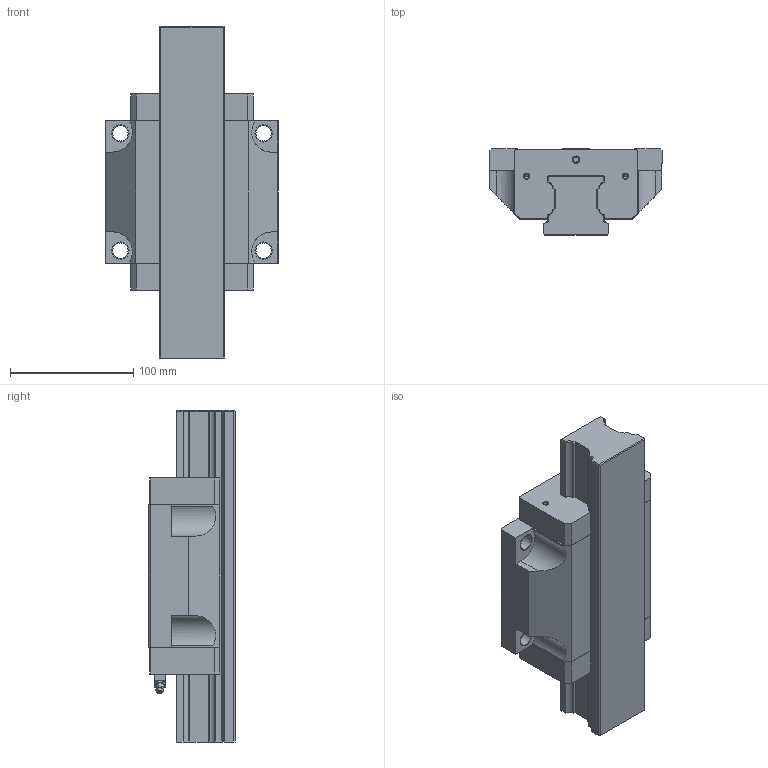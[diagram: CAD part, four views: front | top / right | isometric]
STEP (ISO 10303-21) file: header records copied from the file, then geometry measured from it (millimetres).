
FILE_DESCRIPTION((''),'2;1');
FILE_NAME('KWC_055_FNS_CS__ASM','2021-10-13T04:43:31',('ac91sw'),(''),'CREO PARAMETRIC BY PTC INC, 2020044','CREO PARAMETRIC BY PTC INC, 2020044','');
FILE_SCHEMA(('AUTOMOTIVE_DESIGN { 1 0 10303 214 1 1 1 1 }'));
Length unit declared in the file: millimetre
Products named in the file (7): KWC_055_FNS_CS__SKEL; R169150051; R160150012_Z; KWC_055_FNS_CS__PSF; R343706101_Z; R341700702_Z; KWC_055_FNS_CS__ASM
Assembly tree (7 placements, depth 2):
  KWC_055_FNS_CS__ASM
    KWC_055_FNS_CS__SKEL
    R169150051
    R160150012_Z  x2
    KWC_055_FNS_CS__PSF
    R343706101_Z
    R341700702_Z
Bounding box: 140 x 70 x 269 mm (x, y, z)
Volume: 1233308.1 mm3; surface area: 182956.7 mm2
Topology: 6 solids, 19 shells, 314 faces, 817 edges, 525 vertices
Faces by surface type: plane 180, cylinder 92, cone 38, bspline 2, sphere 2
Entity records: 14274 total; most frequent: CARTESIAN_POINT 1746, DIRECTION 1441, ORIENTED_EDGE 1326, PROPERTY_DEFINITION 820, REPRESENTATION 812, PROPERTY_DEFINITION_REPRESENTATION 812, DESCRIPTIVE_REPRESENTATION_ITEM 760, GENERAL_PROPERTY 752
